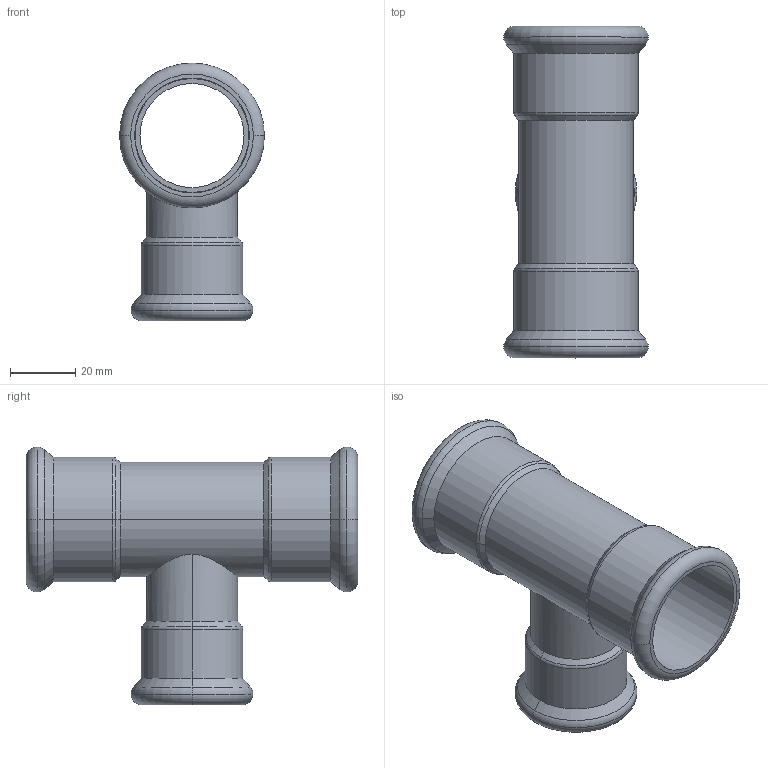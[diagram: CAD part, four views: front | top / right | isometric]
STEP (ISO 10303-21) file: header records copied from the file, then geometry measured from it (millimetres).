
FILE_DESCRIPTION(('CoCreate Modeling STEP Export'),'2;1');
FILE_NAME('C1415 35x28x35.stp','2014-11-12T10:11:38',(''),(''),'CoCreate Modeling STEP processor for AP214 (Solid Model)','CoCreate Modeling 17.00A 17-Jun-2010 (C) Parametric Technology GmbH','');
FILE_SCHEMA(('AUTOMOTIVE_DESIGN { 1 0 10303 214 1 1 1 1 }'));
Length unit declared in the file: millimetre
Products named in the file (2): C1415_35x28x35
Assembly tree (1 placements, depth 2):
  C1415_35x28x35
    C1415_35x28x35
Bounding box: 44.55 x 102 x 79.28 mm (x, y, z)
Volume: 30381.1 mm3; surface area: 32766.1 mm2
Topology: 1 solids, 1 shells, 66 faces, 133 edges, 77 vertices
Faces by surface type: cylinder 27, torus 18, cone 12, plane 9
Entity records: 2660 total; most frequent: CARTESIAN_POINT 1437, ORIENTED_EDGE 266, DIRECTION 220, EDGE_CURVE 133, AXIS2_PLACEMENT_3D 91, VERTEX_POINT 77, EDGE_LOOP 76, FACE_OUTER_BOUND 66
